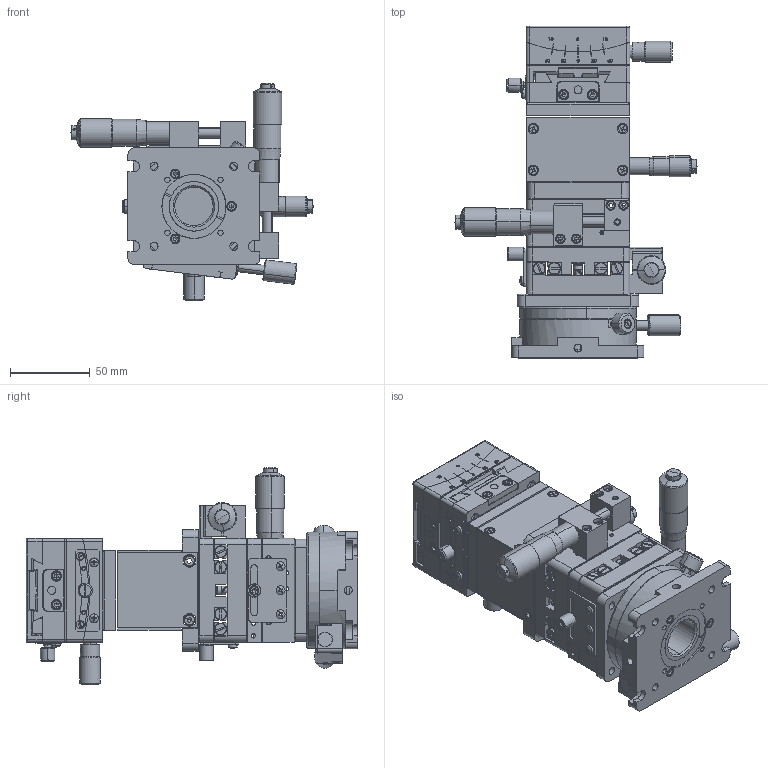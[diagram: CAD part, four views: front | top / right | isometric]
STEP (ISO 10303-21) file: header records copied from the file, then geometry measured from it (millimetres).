
FILE_DESCRIPTION (( 'STEP AP203' ), '1' );
FILE_NAME ('7SAM603郪磁弇痄怢.STEP', '2019-10-12T05:11:13', ( '' ), ( '' ), 'SwSTEP 2.0', 'SolidWorks 2014', '' );
FILE_SCHEMA (( 'CONFIG_CONTROL_DESIGN' ));
Products named in the file (1): 7SAM603郪磁弇痄怢
Bounding box: 151.53 x 207.67 x 136.03 mm (x, y, z)
Surface area: 209228.4 mm2 (no closed solid volume)
Topology: 0 solids, 203 shells, 1846 faces, 6620 edges, 4787 vertices
Faces by surface type: plane 934, cylinder 583, cone 168, torus 96, bspline 39, sphere 26
Entity records: 81406 total; most frequent: CARTESIAN_POINT 25114, DIRECTION 11909, ORIENTED_EDGE 10170, EDGE_CURVE 6584, VERTEX_POINT 4787, AXIS2_PLACEMENT_3D 4239, LINE 3431, VECTOR 3431
